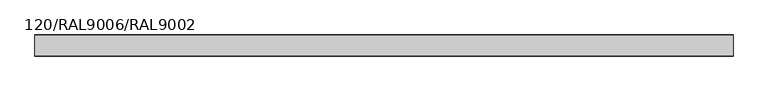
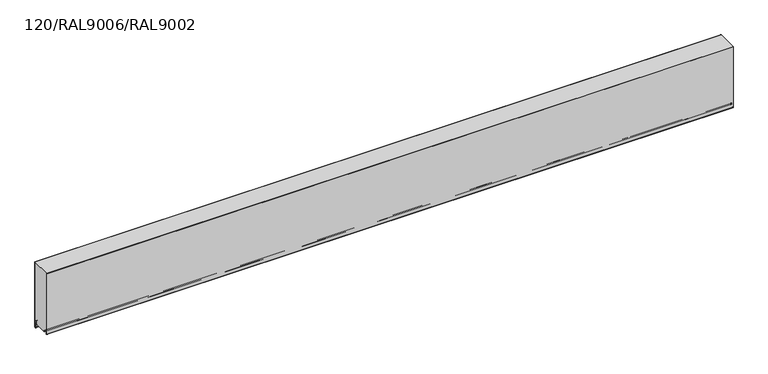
"""IFC4 building model written with IfcOpenShell, lengths in millimetres: plate geometry, TR_C_H_FHL_Panel_cut_GROOVE : 120/RAL9006/RAL9002."""

from ifc_helpers import new_model, si_unit, point, frame, frame_2d, origin, place, context, project, spatial, polyline, circle_curve, trimmed, segment, composite_curve, outline, extrude, source, transform, mapped, element, save


def plate_120_ral9006_ral9002_880d7ee1(model_context):
    return source(origin(), model_context, "Body", "SweptSolid", [
        extrude(outline(composite_curve([segment(polyline([(-0.8, 15.9993484), (-12.3520294, 15.9993484)]), True, "CONTINUOUS"), segment(trimmed(circle_curve(frame_2d((-12.3520294, 11.0993484)), 4.9), [point((-12.3520294, 15.9993484))], [point((-17.2333835, 11.5264116))], True, "CARTESIAN"), True, "CONTINUOUS"), segment(polyline([(-17.2333835, 11.5264116), (-18.0972969, 1.6518352)]), True, "CONTINUOUS"), segment(trimmed(circle_curve(frame_2d((-19.7908279, 1.8)), 1.7), [point((-18.0972969, 1.6518352))], [point((-19.7908279, 0.1))], False, "CARTESIAN"), True, "CONTINUOUS"), segment(polyline([(-19.7908279, 0.1), (-20.8, 0.0), (-94.86, 0.0), (-94.86, 7.9), (-102.3925589, 7.9)]), True, "CONTINUOUS"), segment(trimmed(circle_curve(frame_2d((-102.3925589, 10.85)), 2.95), [point((-102.3925589, 7.9))], [point((-105.2977418, 10.3377379))], False, "CARTESIAN"), True, "CONTINUOUS"), segment(polyline([(-105.2977418, 10.3377379), (-106.364567, 16.3880048)]), True, "CONTINUOUS"), segment(trimmed(circle_curve(frame_2d((-110.55, 15.65)), 4.25), [point((-106.364567, 16.3880048))], [point((-110.55, 19.9))], True, "CARTESIAN"), True, "CONTINUOUS"), segment(polyline([(-110.55, 19.9), (-119.2, 19.9), (-119.2, 370.0), (-0.8, 370.0), (-0.8, 15.9993484)]), True, "CONTINUOUS")], self_intersect=False)), frame((-1980.0, 0.0, 0.0), z_axis=(1.0, 0.0, 0.0), x_axis=(0.0, 1.0, 0.0)), (0.0, 0.0, 1.0), 3960.0),
        extrude(outline(composite_curve([segment(polyline([(-20.8, -0.7), (-20.8, 0.1), (-19.7908279, 0.1)]), True, "CONTINUOUS"), segment(trimmed(circle_curve(frame_2d((-19.7908279, 1.8)), 1.7), [point((-19.7908279, 0.1))], [point((-18.0972969, 1.6518352))], True, "CARTESIAN"), True, "CONTINUOUS"), segment(polyline([(-18.0972969, 1.6518352), (-17.2333835, 11.5264116)]), True, "CONTINUOUS"), segment(trimmed(circle_curve(frame_2d((-12.3520294, 11.0993484)), 4.9), [point((-17.2333835, 11.5264116))], [point((-7.7189884, 12.6946324))], False, "CARTESIAN"), True, "CONTINUOUS"), segment(polyline([(-7.7189884, 12.6946324), (-5.3797887, 5.9011031)]), True, "CONTINUOUS"), segment(trimmed(circle_curve(frame_2d((-8.5, 4.8267282)), 3.3), [point((-5.3797887, 5.9011031))], [point((-5.2, 4.8267282))], False, "CARTESIAN"), True, "CONTINUOUS"), segment(polyline([(-5.2, 4.8267282), (-5.2, -27.5)]), True, "CONTINUOUS"), segment(trimmed(circle_curve(frame_2d((-4.1, -27.5)), 1.1), [point((-5.2, -27.5))], [point((-3.3498018, -28.3044891))], True, "CARTESIAN"), True, "CONTINUOUS"), segment(polyline([(-3.3498018, -28.3044891), (-1.4042031, -26.4901889)]), True, "CONTINUOUS"), segment(trimmed(circle_curve(frame_2d((-2.7, -25.1006169)), 1.9), [point((-1.4042031, -26.4901889))], [point((-0.8, -25.1006169))], True, "CARTESIAN"), True, "CONTINUOUS"), segment(polyline([(-0.8, -25.1006169), (-0.8, 370.0), (0.0, 370.0), (0.0, -25.1006169)]), True, "CONTINUOUS"), segment(trimmed(circle_curve(frame_2d((-2.7, -25.1006169)), 2.7), [point((0.0, -25.1006169))], [point((-0.8586044, -27.0752719))], False, "CARTESIAN"), True, "CONTINUOUS"), segment(polyline([(-0.8586044, -27.0752719), (-2.8042031, -28.889572)]), True, "CONTINUOUS"), segment(trimmed(circle_curve(frame_2d((-4.1, -27.5)), 1.9), [point((-2.8042031, -28.889572))], [point((-6.0, -27.5))], False, "CARTESIAN"), True, "CONTINUOUS"), segment(polyline([(-6.0, -27.5), (-6.0, 4.8267282)]), True, "CONTINUOUS"), segment(trimmed(circle_curve(frame_2d((-8.5, 4.8267282)), 2.5), [point((-6.0, 4.8267282))], [point((-6.1362036, 5.6406486))], True, "CARTESIAN"), True, "CONTINUOUS"), segment(polyline([(-6.1362036, 5.6406486), (-8.4754033, 12.4341779)]), True, "CONTINUOUS"), segment(trimmed(circle_curve(frame_2d((-12.3520294, 11.0993484)), 4.1), [point((-8.4754033, 12.4341779))], [point((-16.4364277, 11.456687))], True, "CARTESIAN"), True, "CONTINUOUS"), segment(polyline([(-16.4364277, 11.456687), (-17.3003412, 1.5821106)]), True, "CONTINUOUS"), segment(trimmed(circle_curve(frame_2d((-19.7908279, 1.8)), 2.5), [point((-17.3003412, 1.5821106))], [point((-19.7908279, -0.7))], False, "CARTESIAN"), True, "CONTINUOUS"), segment(polyline([(-19.7908279, -0.7), (-20.8, -0.7)]), True, "CONTINUOUS")], self_intersect=False)), frame((-1980.0, 0.0, 0.0), z_axis=(1.0, 0.0, 0.0), x_axis=(0.0, 1.0, 0.0)), (0.0, 0.0, 1.0), 3960.0),
        extrude(outline(composite_curve([segment(polyline([(-99.0, 7.1), (-102.3925589, 7.1)]), True, "CONTINUOUS"), segment(trimmed(circle_curve(frame_2d((-102.3925589, 10.85)), 3.75), [point((-102.3925589, 7.1))], [point((-106.085588, 10.1988193))], False, "CARTESIAN"), True, "CONTINUOUS"), segment(polyline([(-106.085588, 10.1988193), (-107.1524133, 16.2490862)]), True, "CONTINUOUS"), segment(trimmed(circle_curve(frame_2d((-110.55, 15.65)), 3.45), [point((-107.1524133, 16.2490862))], [point((-114.0, 15.65))], True, "CARTESIAN"), True, "CONTINUOUS"), segment(polyline([(-114.0, 15.65), (-114.0, -1.95)]), True, "CONTINUOUS"), segment(trimmed(circle_curve(frame_2d((-115.95, -1.95)), 1.95), [point((-114.0, -1.95))], [point((-117.3288582, -3.3288582))], False, "CARTESIAN"), True, "CONTINUOUS"), segment(polyline([(-117.3288582, -3.3288582), (-119.1945436, -1.4631728)]), True, "CONTINUOUS"), segment(trimmed(circle_curve(frame_2d((-117.25, 0.4813708)), 2.75), [point((-119.1945436, -1.4631728))], [point((-120.0, 0.4813708))], False, "CARTESIAN"), True, "CONTINUOUS"), segment(polyline([(-120.0, 0.4813708), (-120.0, 370.0), (-119.2, 370.0), (-119.2, 0.4813708)]), True, "CONTINUOUS"), segment(trimmed(circle_curve(frame_2d((-117.25, 0.4813708)), 1.95), [point((-119.2, 0.4813708))], [point((-118.6288582, -0.8974874))], True, "CARTESIAN"), True, "CONTINUOUS"), segment(polyline([(-118.6288582, -0.8974874), (-116.7631728, -2.7631728)]), True, "CONTINUOUS"), segment(trimmed(circle_curve(frame_2d((-115.95, -1.95)), 1.15), [point((-116.7631728, -2.7631728))], [point((-114.8, -1.95))], True, "CARTESIAN"), True, "CONTINUOUS"), segment(polyline([(-114.8, -1.95), (-114.8, 15.65)]), True, "CONTINUOUS"), segment(trimmed(circle_curve(frame_2d((-110.55, 15.65)), 4.25), [point((-114.8, 15.65))], [point((-106.364567, 16.3880048))], False, "CARTESIAN"), True, "CONTINUOUS"), segment(polyline([(-106.364567, 16.3880048), (-105.2977418, 10.3377379)]), True, "CONTINUOUS"), segment(trimmed(circle_curve(frame_2d((-102.3925589, 10.85)), 2.95), [point((-105.2977418, 10.3377379))], [point((-102.3925589, 7.9))], True, "CARTESIAN"), True, "CONTINUOUS"), segment(polyline([(-102.3925589, 7.9), (-99.0, 7.9), (-99.0, 7.1)]), True, "CONTINUOUS")], self_intersect=False)), frame((-1980.0, 0.0, 0.0), z_axis=(1.0, 0.0, 0.0), x_axis=(0.0, 1.0, 0.0)), (0.0, 0.0, 1.0), 3960.0),
    ])


if __name__ == "__main__":
    model = new_model("IFC4")
    model_context = context("Model", 3, world=origin())
    ifc_project = project(units=[si_unit("LENGTHUNIT", "METRE", prefix="MILLI")], contexts=[model_context])
    site = spatial("IfcSite", under=ifc_project)
    building = spatial("IfcBuilding", under=site)
    placement = place(None, origin())
    plate_120_ral9006_ral9002_shape = plate_120_ral9006_ral9002_880d7ee1(model_context)
    element("IfcPlate", 1, ObjectType="TR_C_H_FHL_Panel_cut_GROOVE : 120/RAL9006/RAL9002", at=placement, inside=building, context=model_context, shape_type="MappedRepresentation", body=[
        mapped(plate_120_ral9006_ral9002_shape, transform((0.0, 0.0, 0.0), x_axis=(1.0, 0.0, 0.0), y_axis=(0.0, 1.0, 0.0), z_axis=(0.0, 0.0, 1.0))),
    ])
    save(model, "model.ifc")
